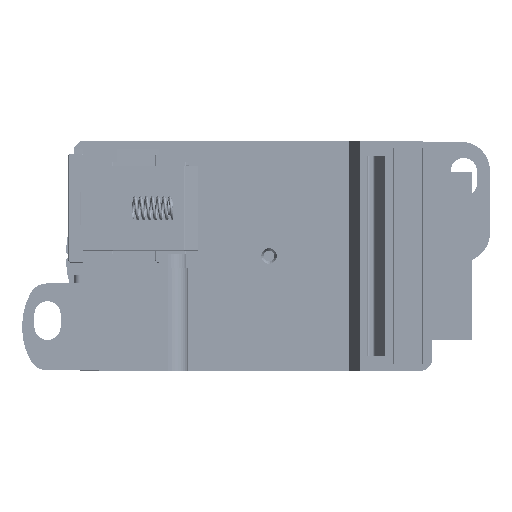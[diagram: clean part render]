
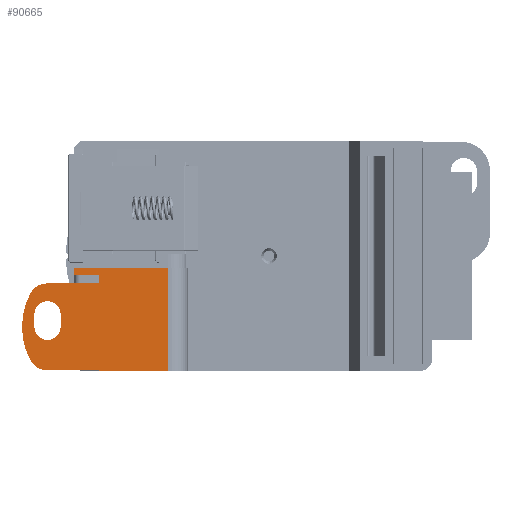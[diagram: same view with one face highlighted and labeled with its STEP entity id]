
A CAD part, front view. The second image highlights one B-rep face of the part: STEP entity #90665.
In plain terms, the highlighted planar face has unit normal (0, -1, 0).
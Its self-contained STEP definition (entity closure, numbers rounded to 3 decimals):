
#52835 = VERTEX_POINT ( 'NONE', #110993 ) ;
#57440 = VERTEX_POINT ( 'NONE', #134256 ) ;
#57446 = EDGE_CURVE ( 'NONE', #52835, #57440, #134242, .T. ) ;
#60958 = EDGE_CURVE ( 'NONE', #61026, #60961, #141732, .T. ) ;
#60961 = VERTEX_POINT ( 'NONE', #142001 ) ;
#60991 = VERTEX_POINT ( 'NONE', #141944 ) ;
#61026 = VERTEX_POINT ( 'NONE', #142113 ) ;
#61034 = EDGE_CURVE ( 'NONE', #61038, #61026, #142099, .T. ) ;
#61038 = VERTEX_POINT ( 'NONE', #142087 ) ;
#61114 = EDGE_CURVE ( 'NONE', #61118, #52835, #142360, .T. ) ;
#61118 = VERTEX_POINT ( 'NONE', #142330 ) ;
#61151 = VERTEX_POINT ( 'NONE', #142288 ) ;
#61182 = VERTEX_POINT ( 'NONE', #142463 ) ;
#61188 = EDGE_CURVE ( 'NONE', #61237, #61182, #142457, .T. ) ;
#61208 = EDGE_CURVE ( 'NONE', #60961, #60991, #142418, .T. ) ;
#61237 = VERTEX_POINT ( 'NONE', #142379 ) ;
#61241 = EDGE_CURVE ( 'NONE', #60991, #61237, #142367, .T. ) ;
#61293 = EDGE_CURVE ( 'NONE', #61373, #61118, #142478, .T. ) ;
#61344 = EDGE_CURVE ( 'NONE', #57440, #61151, #142576, .T. ) ;
#61373 = VERTEX_POINT ( 'NONE', #142761 ) ;
#61379 = EDGE_CURVE ( 'NONE', #61151, #61373, #142754, .T. ) ;
#81967 = CARTESIAN_POINT ( 'NONE',  ( -163.12, -7.022, 172.4 ) ) ;
#81971 = DIRECTION ( 'NONE',  ( 1., 0., 0. ) ) ;
#81973 = VECTOR ( 'NONE', #81971, 1000. ) ;
#81977 = CARTESIAN_POINT ( 'NONE',  ( -174.051, -7.022, 172.4 ) ) ;
#81979 = LINE ( 'NONE', #81977, #81973 ) ;
#82771 = CARTESIAN_POINT ( 'NONE',  ( -158.02, -7.022, 172.4 ) ) ;
#84563 = DIRECTION ( 'NONE',  ( 0., 0., -1. ) ) ;
#84566 = VECTOR ( 'NONE', #84563, 1000. ) ;
#84569 = CARTESIAN_POINT ( 'NONE',  ( -158.02, -7.022, 152.7 ) ) ;
#84590 = LINE ( 'NONE', #84569, #84566 ) ;
#85137 = DIRECTION ( 'NONE',  ( 0., 0., -1. ) ) ;
#85139 = VECTOR ( 'NONE', #85137, 1000. ) ;
#85142 = CARTESIAN_POINT ( 'NONE',  ( -158.02, -7.022, 152.7 ) ) ;
#85144 = LINE ( 'NONE', #85142, #85139 ) ;
#85155 = CARTESIAN_POINT ( 'NONE',  ( -158.02, -7.022, 152.7 ) ) ;
#89157 = DIRECTION ( 'NONE',  ( 0., 0., -1. ) ) ;
#89160 = DIRECTION ( 'NONE',  ( 0., -1., 0. ) ) ;
#89161 = CARTESIAN_POINT ( 'NONE',  ( -174.051, -7.022, 152.7 ) ) ;
#89163 = AXIS2_PLACEMENT_3D ( 'NONE', #89161, #89160, #89157 ) ;
#89171 = PLANE ( 'NONE',  #89163 ) ;
#89186 = FACE_OUTER_BOUND ( 'NONE', #90707, .T. ) ;
#89189 = FACE_BOUND ( 'NONE', #90668, .T. ) ;
#89341 = EDGE_CURVE ( 'NONE', #89342, #89522, #81979, .T. ) ;
#89342 = VERTEX_POINT ( 'NONE', #81967 ) ;
#89522 = VERTEX_POINT ( 'NONE', #82771 ) ;
#90032 = VERTEX_POINT ( 'NONE', #85155 ) ;
#90047 = EDGE_CURVE ( 'NONE', #61182, #90032, #85144, .T. ) ;
#90212 = EDGE_CURVE ( 'NONE', #89522, #61038, #84590, .T. ) ;
#90665 = ADVANCED_FACE ( 'NONE', ( #89189, #89186 ), #89171, .T. ) ;
#90668 = EDGE_LOOP ( 'NONE', ( #90675, #90681, #90688, #90695, #90701 ) ) ;
#90675 = ORIENTED_EDGE ( 'NONE', *, *, #61379, .T. ) ;
#90681 = ORIENTED_EDGE ( 'NONE', *, *, #61293, .T. ) ;
#90688 = ORIENTED_EDGE ( 'NONE', *, *, #61114, .T. ) ;
#90695 = ORIENTED_EDGE ( 'NONE', *, *, #57446, .T. ) ;
#90701 = ORIENTED_EDGE ( 'NONE', *, *, #61344, .T. ) ;
#90707 = EDGE_LOOP ( 'NONE', ( #90717, #90724, #90730, #90895, #90904, #90911, #90927, #90942, #90948, #90954, #91097, #91100 ) ) ;
#90717 = ORIENTED_EDGE ( 'NONE', *, *, #61241, .T. ) ;
#90724 = ORIENTED_EDGE ( 'NONE', *, *, #61188, .T. ) ;
#90730 = ORIENTED_EDGE ( 'NONE', *, *, #90047, .T. ) ;
#90798 = VERTEX_POINT ( 'NONE', #92980 ) ;
#90809 = EDGE_CURVE ( 'NONE', #90817, #90798, #92968, .T. ) ;
#90817 = VERTEX_POINT ( 'NONE', #92954 ) ;
#90895 = ORIENTED_EDGE ( 'NONE', *, *, #90898, .F. ) ;
#90898 = EDGE_CURVE ( 'NONE', #90817, #90032, #93204, .T. ) ;
#90904 = ORIENTED_EDGE ( 'NONE', *, *, #90809, .T. ) ;
#90911 = ORIENTED_EDGE ( 'NONE', *, *, #90917, .F. ) ;
#90917 = EDGE_CURVE ( 'NONE', #90921, #90798, #93183, .T. ) ;
#90921 = VERTEX_POINT ( 'NONE', #93164 ) ;
#90927 = ORIENTED_EDGE ( 'NONE', *, *, #90934, .F. ) ;
#90934 = EDGE_CURVE ( 'NONE', #89342, #90921, #93167, .T. ) ;
#90942 = ORIENTED_EDGE ( 'NONE', *, *, #89341, .T. ) ;
#90948 = ORIENTED_EDGE ( 'NONE', *, *, #90212, .T. ) ;
#90954 = ORIENTED_EDGE ( 'NONE', *, *, #61034, .T. ) ;
#91097 = ORIENTED_EDGE ( 'NONE', *, *, #60958, .T. ) ;
#91100 = ORIENTED_EDGE ( 'NONE', *, *, #61208, .T. ) ;
#92954 = CARTESIAN_POINT ( 'NONE',  ( -143.72, -7.022, 152.7 ) ) ;
#92957 = DIRECTION ( 'NONE',  ( 0., 0., 1. ) ) ;
#92961 = VECTOR ( 'NONE', #92957, 1000. ) ;
#92964 = CARTESIAN_POINT ( 'NONE',  ( -143.72, -7.022, 152.7 ) ) ;
#92968 = LINE ( 'NONE', #92964, #92961 ) ;
#92980 = CARTESIAN_POINT ( 'NONE',  ( -143.72, -7.022, 173.9 ) ) ;
#93159 = CARTESIAN_POINT ( 'NONE',  ( -163.12, -7.022, 153.9 ) ) ;
#93164 = CARTESIAN_POINT ( 'NONE',  ( -163.12, -7.022, 173.9 ) ) ;
#93167 = LINE ( 'NONE', #93159, #93472 ) ;
#93175 = DIRECTION ( 'NONE',  ( 1., 0., 0. ) ) ;
#93178 = VECTOR ( 'NONE', #93175, 1000. ) ;
#93182 = CARTESIAN_POINT ( 'NONE',  ( -163.12, -7.022, 173.9 ) ) ;
#93183 = LINE ( 'NONE', #93182, #93178 ) ;
#93196 = DIRECTION ( 'NONE',  ( -1., 0., 0. ) ) ;
#93200 = VECTOR ( 'NONE', #93196, 1000. ) ;
#93203 = CARTESIAN_POINT ( 'NONE',  ( -161.92, -7.022, 152.7 ) ) ;
#93204 = LINE ( 'NONE', #93203, #93200 ) ;
#93470 = DIRECTION ( 'NONE',  ( 0., 0., 1. ) ) ;
#93472 = VECTOR ( 'NONE', #93470, 1000. ) ;
#110993 = CARTESIAN_POINT ( 'NONE',  ( -165.92, -7.022, 161.75 ) ) ;
#134230 = DIRECTION ( 'NONE',  ( 0., 0., -1. ) ) ;
#134233 = DIRECTION ( 'NONE',  ( 0., 1., 0. ) ) ;
#134235 = CARTESIAN_POINT ( 'NONE',  ( -168.62, -7.022, 161.75 ) ) ;
#134239 = AXIS2_PLACEMENT_3D ( 'NONE', #134235, #134233, #134230 ) ;
#134242 = CIRCLE ( 'NONE', #134239, 2.7 ) ;
#134256 = CARTESIAN_POINT ( 'NONE',  ( -168.62, -7.022, 159.05 ) ) ;
#140261 = AXIS2_PLACEMENT_3D ( 'NONE', #141326, #142365, #142568 ) ;
#141326 = CARTESIAN_POINT ( 'NONE',  ( -168.704, -7.022, 156.7 ) ) ;
#141720 = DIRECTION ( 'NONE',  ( 0., 0., -1. ) ) ;
#141724 = DIRECTION ( 'NONE',  ( 0., -1., 0. ) ) ;
#141727 = CARTESIAN_POINT ( 'NONE',  ( -168.704, -7.022, 166.8 ) ) ;
#141730 = AXIS2_PLACEMENT_3D ( 'NONE', #141727, #141724, #141720 ) ;
#141732 = CIRCLE ( 'NONE', #141730, 3.9 ) ;
#141944 = CARTESIAN_POINT ( 'NONE',  ( -172.142, -7.022, 154.859 ) ) ;
#142001 = CARTESIAN_POINT ( 'NONE',  ( -172.142, -7.022, 168.641 ) ) ;
#142087 = CARTESIAN_POINT ( 'NONE',  ( -158.02, -7.022, 170.7 ) ) ;
#142092 = DIRECTION ( 'NONE',  ( -1., 0., 0. ) ) ;
#142094 = VECTOR ( 'NONE', #142092, 1000. ) ;
#142096 = CARTESIAN_POINT ( 'NONE',  ( -174.051, -7.022, 170.7 ) ) ;
#142099 = LINE ( 'NONE', #142096, #142094 ) ;
#142113 = CARTESIAN_POINT ( 'NONE',  ( -168.704, -7.022, 170.7 ) ) ;
#142288 = CARTESIAN_POINT ( 'NONE',  ( -171.32, -7.022, 161.75 ) ) ;
#142330 = CARTESIAN_POINT ( 'NONE',  ( -165.92, -7.022, 164.35 ) ) ;
#142353 = DIRECTION ( 'NONE',  ( 0., 0., -1. ) ) ;
#142355 = VECTOR ( 'NONE', #142353, 1000. ) ;
#142357 = CARTESIAN_POINT ( 'NONE',  ( -165.92, -7.022, 152.7 ) ) ;
#142360 = LINE ( 'NONE', #142357, #142355 ) ;
#142365 = DIRECTION ( 'NONE',  ( 0., -1., 0. ) ) ;
#142367 = CIRCLE ( 'NONE', #140261, 3.9 ) ;
#142379 = CARTESIAN_POINT ( 'NONE',  ( -168.704, -7.022, 152.8 ) ) ;
#142410 = DIRECTION ( 'NONE',  ( 1., 0., 0. ) ) ;
#142413 = DIRECTION ( 'NONE',  ( 0., -1., 0. ) ) ;
#142416 = AXIS2_PLACEMENT_3D ( 'NONE', #142438, #142413, #142410 ) ;
#142418 = CIRCLE ( 'NONE', #142416, 14.6 ) ;
#142438 = CARTESIAN_POINT ( 'NONE',  ( -159.27, -7.022, 161.75 ) ) ;
#142452 = DIRECTION ( 'NONE',  ( 1., 0., 0. ) ) ;
#142453 = VECTOR ( 'NONE', #142452, 1000. ) ;
#142455 = CARTESIAN_POINT ( 'NONE',  ( -174.051, -7.022, 152.8 ) ) ;
#142457 = LINE ( 'NONE', #142455, #142453 ) ;
#142463 = CARTESIAN_POINT ( 'NONE',  ( -158.02, -7.022, 152.8 ) ) ;
#142478 = CIRCLE ( 'NONE', #142658, 2.7 ) ;
#142568 = DIRECTION ( 'NONE',  ( 0., 0., -1. ) ) ;
#142570 = DIRECTION ( 'NONE',  ( 0., 0., -1. ) ) ;
#142571 = DIRECTION ( 'NONE',  ( 0., 1., 0. ) ) ;
#142572 = CARTESIAN_POINT ( 'NONE',  ( -168.62, -7.022, 161.75 ) ) ;
#142574 = AXIS2_PLACEMENT_3D ( 'NONE', #142572, #142571, #142570 ) ;
#142576 = CIRCLE ( 'NONE', #142574, 2.7 ) ;
#142653 = DIRECTION ( 'NONE',  ( 0., 0., -1. ) ) ;
#142654 = DIRECTION ( 'NONE',  ( 0., 1., 0. ) ) ;
#142657 = CARTESIAN_POINT ( 'NONE',  ( -168.62, -7.022, 164.35 ) ) ;
#142658 = AXIS2_PLACEMENT_3D ( 'NONE', #142657, #142654, #142653 ) ;
#142747 = DIRECTION ( 'NONE',  ( 0., 0., 1. ) ) ;
#142750 = VECTOR ( 'NONE', #142747, 1000. ) ;
#142752 = CARTESIAN_POINT ( 'NONE',  ( -171.32, -7.022, 152.7 ) ) ;
#142754 = LINE ( 'NONE', #142752, #142750 ) ;
#142761 = CARTESIAN_POINT ( 'NONE',  ( -171.32, -7.022, 164.35 ) ) ;
